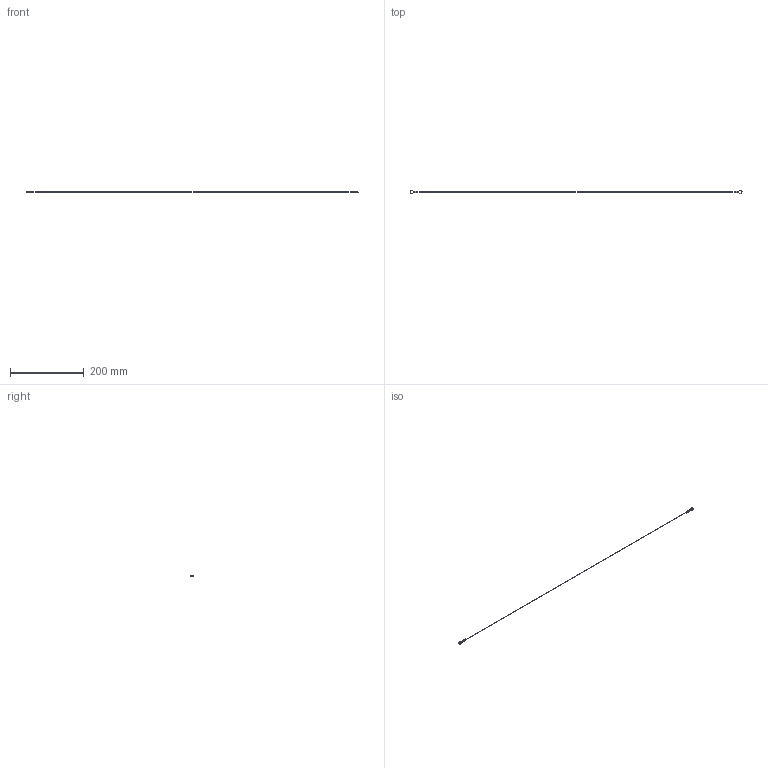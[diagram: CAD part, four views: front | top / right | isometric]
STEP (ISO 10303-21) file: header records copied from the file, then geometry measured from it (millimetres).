
FILE_DESCRIPTION (( 'STEP AP203' ), '1' );
FILE_NAME ('EB-935-13.STEP', '2013-08-12T06:35:37', ( 'SDS' ), ( 'SDS' ), 'SwSTEP 2.0', 'SolidWorks 2002296', '' );
FILE_SCHEMA (( 'CONFIG_CONTROL_DESIGN' ));
Length unit declared in the file: millimetre
Products named in the file (1): EB-935-13
Bounding box: 899.99 x 10.12 x 2.5 mm (x, y, z)
Surface area: 3122.8 mm2 (no closed solid volume)
Topology: 0 solids, 2 shells, 29 faces, 68 edges, 38 vertices
Faces by surface type: bspline 16, plane 11, cylinder 2
Entity records: 1294 total; most frequent: CARTESIAN_POINT 626, ORIENTED_EDGE 124, DIRECTION 118, EDGE_CURVE 66, AXIS2_PLACEMENT_3D 46, VERTEX_POINT 38, EDGE_LOOP 32, CIRCLE 32
